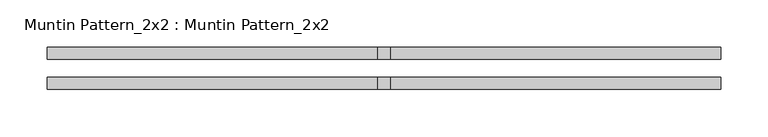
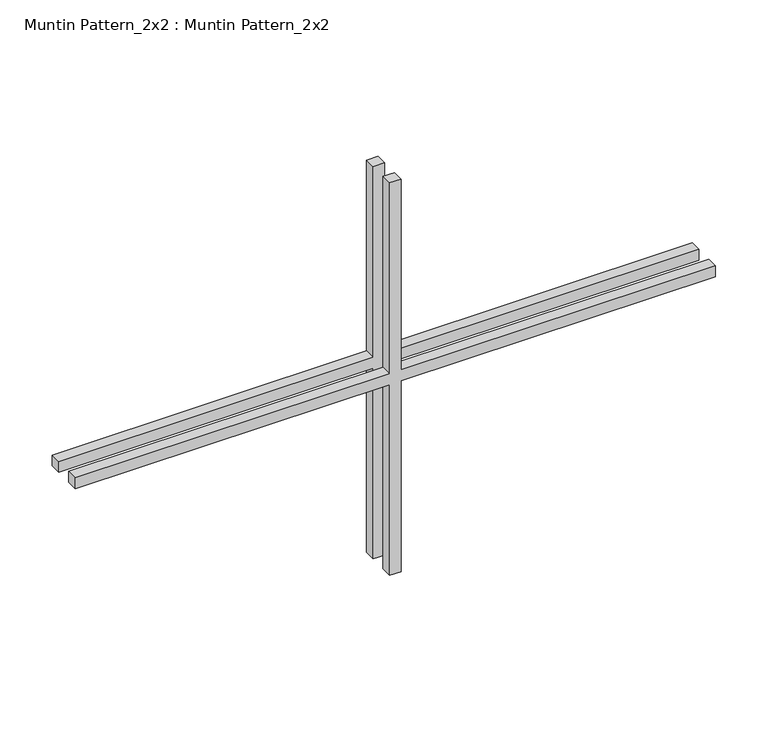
"""IFC4 building model written with IfcOpenShell, lengths in millimetres: proxy geometry, Muntin Pattern_2x2 : Muntin Pattern_2x2."""

from ifc_helpers import new_model, si_unit, frame, origin, place, context, project, spatial, polyline, outline, extrude, source, transform, mapped, element, save


def muntin_pattern_2x2_muntin_pattern_2x2_9d8ca844(model_context):
    return source(origin(), model_context, "Body", "SweptSolid", [
        extrude(outline(polyline([(236.5375, -6.35), (236.5375, -355.6), (223.8375, -355.6), (223.8375, -6.35), (0.0, -6.35), (0.0, 6.35), (223.8375, 6.35), (223.8375, 355.6), (236.5375, 355.6), (236.5375, 6.35), (460.375, 6.35), (460.375, -6.35), (236.5375, -6.35)])), frame((0.0, 9.525, 0.0), z_axis=(0.0, 1.0, 0.0), x_axis=(0.0, 0.0, 1.0)), (0.0, 0.0, 1.0), 12.7),
        extrude(outline(polyline([(236.5375, -6.35), (236.5375, -355.6), (223.8375, -355.6), (223.8375, -6.35), (0.0, -6.35), (0.0, 6.35), (223.8375, 6.35), (223.8375, 355.6), (236.5375, 355.6), (236.5375, 6.35), (460.375, 6.35), (460.375, -6.35), (236.5375, -6.35)])), frame((0.0, -22.225, 0.0), z_axis=(0.0, 1.0, 0.0), x_axis=(0.0, 0.0, 1.0)), (0.0, 0.0, 1.0), 12.7),
    ])


if __name__ == "__main__":
    model = new_model("IFC4")
    model_context = context("Model", 3, world=origin())
    ifc_project = project(units=[si_unit("LENGTHUNIT", "METRE", prefix="MILLI")], contexts=[model_context])
    site = spatial("IfcSite", under=ifc_project)
    building = spatial("IfcBuilding", under=site)
    placement = place(None, origin())
    muntin_pattern_2x2_muntin_pattern_2x2_shape = muntin_pattern_2x2_muntin_pattern_2x2_9d8ca844(model_context)
    element("IfcBuildingElementProxy", 1, Name="Muntin Pattern_2x2 : Muntin Pattern_2x2", ObjectType="Muntin Pattern_2x2 : Muntin Pattern_2x2", at=placement, inside=building, context=model_context, shape_type="MappedRepresentation", body=[
        mapped(muntin_pattern_2x2_muntin_pattern_2x2_shape, transform((0.0, 0.0, 0.0), x_axis=(1.0, 0.0, 0.0), y_axis=(0.0, 1.0, 0.0), z_axis=(0.0, 0.0, 1.0))),
    ])
    save(model, "model.ifc")
